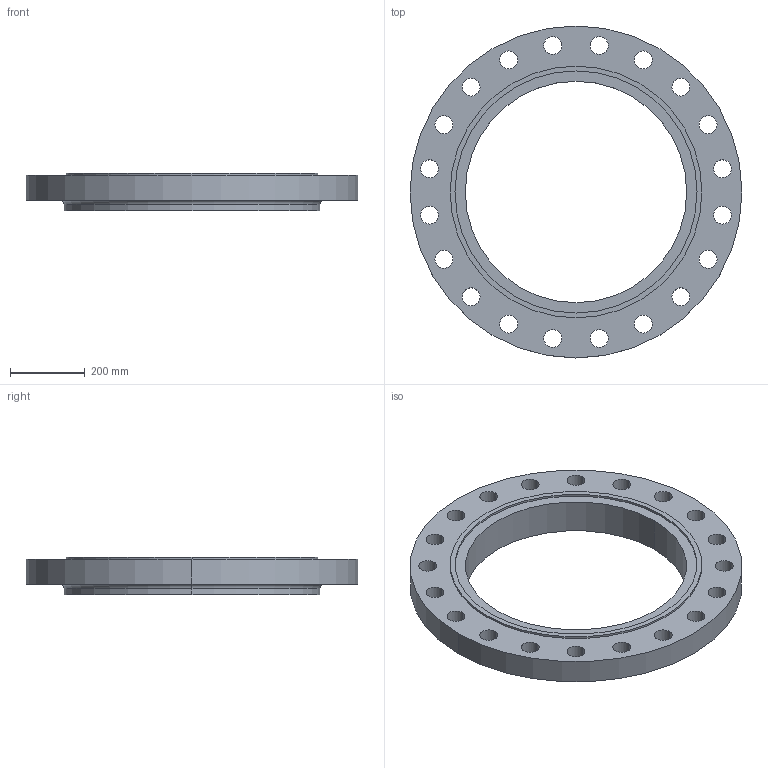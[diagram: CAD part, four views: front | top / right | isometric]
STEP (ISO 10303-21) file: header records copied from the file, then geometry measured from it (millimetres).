
FILE_DESCRIPTION (( 'STEP AP214' ), '1' );
FILE_NAME ('PN40 DN600 Type 13 - Type C Face.STEP', '2018-12-28T22:59:27', ( '' ), ( '' ), 'SwSTEP 2.0', 'SolidWorks 2019', '' );
FILE_SCHEMA (( 'AUTOMOTIVE_DESIGN' ));
Length unit declared in the file: millimetre
Products named in the file (1): PN40 DN600 Type 13 - Type C Face
Bounding box: 890 x 890 x 100 mm (x, y, z)
Volume: 23384724.6 mm3; surface area: 1253414.8 mm2
Topology: 1 solids, 1 shells, 57 faces, 154 edges, 102 vertices
Faces by surface type: cylinder 50, plane 5, torus 2
Entity records: 1974 total; most frequent: DIRECTION 374, CARTESIAN_POINT 314, ORIENTED_EDGE 308, AXIS2_PLACEMENT_3D 162, EDGE_CURVE 154, CIRCLE 104, VERTEX_POINT 102, EDGE_LOOP 102
